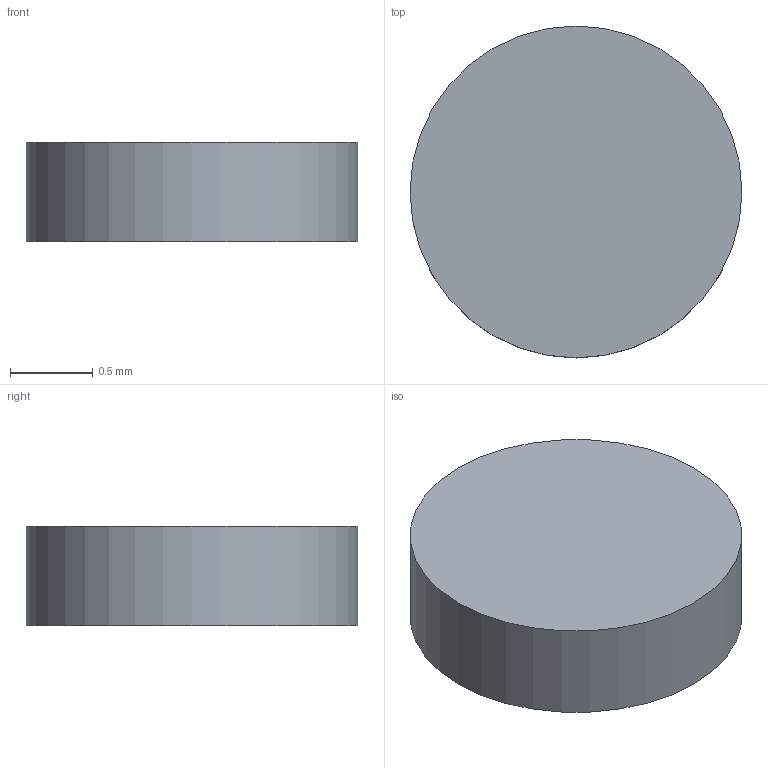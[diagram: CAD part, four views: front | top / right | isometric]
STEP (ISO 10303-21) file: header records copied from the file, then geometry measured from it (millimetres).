
FILE_DESCRIPTION(('Open CASCADE Model'),'2;1');
FILE_NAME('Open CASCADE Shape Model','2026-09-13T17:41:39',('Author'),( 'Open CASCADE'),'Open CASCADE STEP processor 7.8','Open CASCADE 7.8' ,'Unknown');
FILE_SCHEMA(('AUTOMOTIVE_DESIGN { 1 0 10303 214 1 1 1 1 }'));
Length unit declared in the file: millimetre
Products named in the file (1): Open CASCADE STEP translator 7.8 2
Bounding box: 2 x 2 x 0.6 mm (x, y, z)
Volume: 1.9 mm3; surface area: 10.1 mm2
Topology: 1 solids, 1 shells, 3 faces, 3 edges, 2 vertices
Faces by surface type: plane 2, cylinder 1
Full cylindrical faces by diameter (mm): 2 x1
Entity records: 108 total; most frequent: DIRECTION 19, CARTESIAN_POINT 15, AXIS2_PLACEMENT_3D 6, ORIENTED_EDGE 6, PCURVE 6, DEFINITIONAL_REPRESENTATION 6, LINE 5, VECTOR 5
